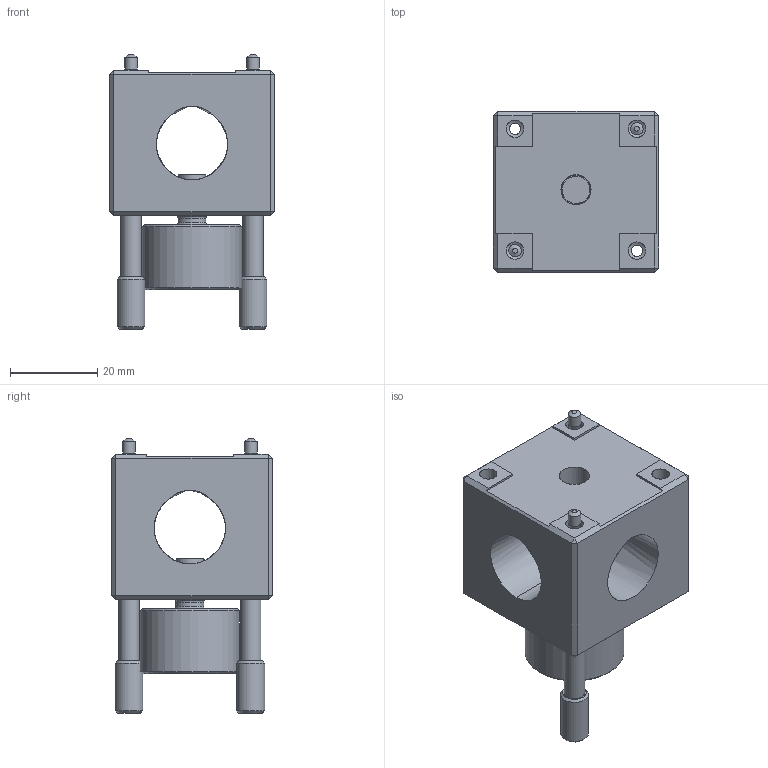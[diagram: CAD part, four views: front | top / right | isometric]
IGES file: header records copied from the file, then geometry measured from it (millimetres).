
Global section: file name: Y:\_LCPD Drawings\13.1 Lightweight Models\8003\LA-8003-3146 CLAMP BLOCK\LA_8003_3146_B.igs; native system: NX V7.5; preprocessor: SIEMENS PLM Software NX 7.5; date: 20120510.141023; units: millimetre
Bounding box: 38 x 37 x 63 mm (x, y, z)
Surface area: 15605.5 mm2 (no closed solid volume)
Topology: 0 solids, 0 shells, 482 faces, 2774 edges, 2718 vertices
Faces by surface type: bspline 408, revolution 74
